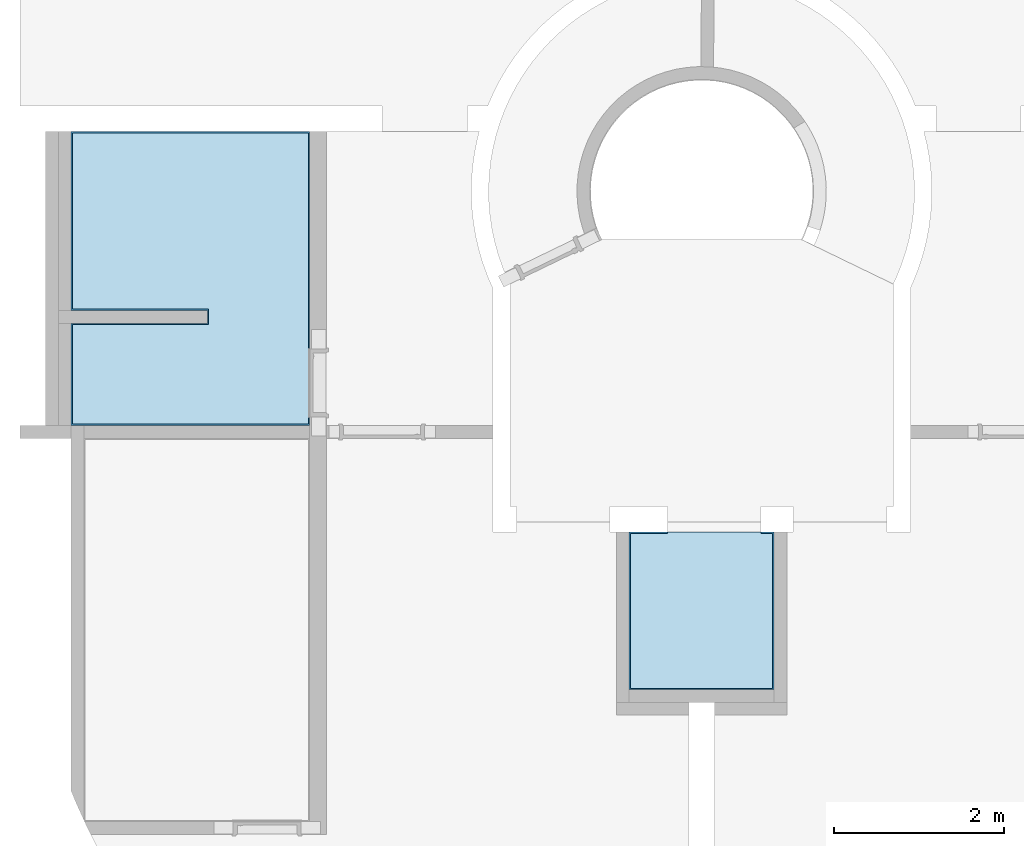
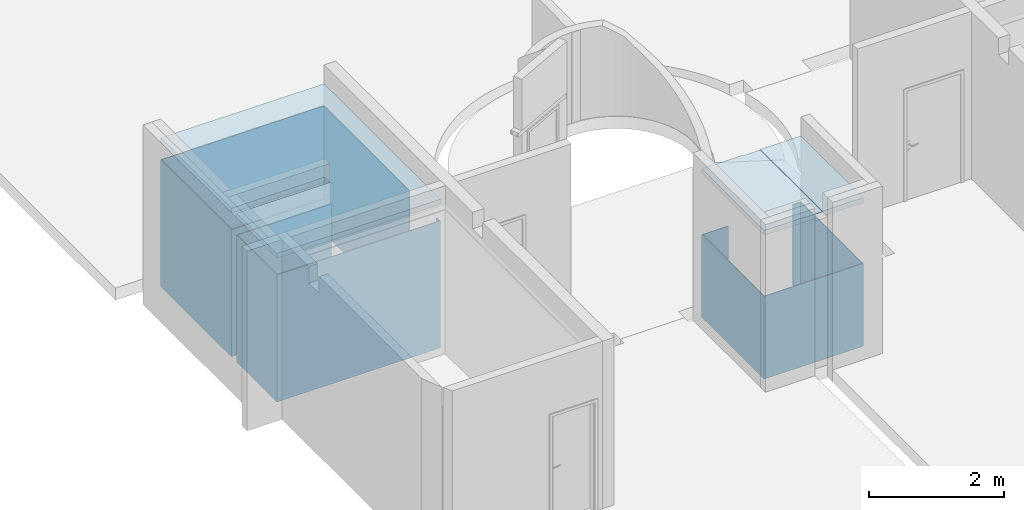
# One storey, part 8 of 21: 4 slabs.
"""IFC4 building model written with IfcOpenShell, lengths in millimetres."""

from ifc_helpers import new_model, entity, si_unit, converted_unit, derived_unit, direction, frame, origin_with_axes, place, context, subcontext, project, spatial, polygons, material, constituent, constituent_set, type_object, element, save


model = new_model("IFC4")

# Units and contexts
model_context = context("Model", 3, precision=0.01, world=origin_with_axes(), true_north=direction((0.0, 1.0)))
body_context = subcontext(model_context, "Body", "Model", "MODEL_VIEW")
ifc_project = project(units=[si_unit("LENGTHUNIT", "METRE", prefix="MILLI"), si_unit("AREAUNIT", "SQUARE_METRE"), si_unit("VOLUMEUNIT", "CUBIC_METRE"), converted_unit("PLANEANGLEUNIT", "DEGREE", entity("IfcPlaneAngleMeasure", 0.0174532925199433), si_unit("PLANEANGLEUNIT", "RADIAN"), dimensions=[0, 0, 0, 0, 0, 0, 0]), converted_unit("TIMEUNIT", "Year", entity("IfcTimeMeasure", 31557600.0), si_unit("TIMEUNIT", "SECOND"), dimensions=[0, 0, 1, 0, 0, 0, 0]), si_unit("MASSUNIT", "GRAM", prefix="KILO"), si_unit("THERMODYNAMICTEMPERATUREUNIT", "DEGREE_CELSIUS"), si_unit("LUMINOUSINTENSITYUNIT", "LUMEN"), si_unit("ENERGYUNIT", "JOULE", prefix="MEGA"), derived_unit("THERMALCONDUCTANCEUNIT", [(si_unit("POWERUNIT", "WATT"), 1), (si_unit("LENGTHUNIT", "METRE"), -1), (si_unit("THERMODYNAMICTEMPERATUREUNIT", "KELVIN"), -1)]), derived_unit("SPECIFICHEATCAPACITYUNIT", [(si_unit("ENERGYUNIT", "JOULE"), 1), (si_unit("MASSUNIT", "GRAM", prefix="KILO"), -1), (si_unit("THERMODYNAMICTEMPERATUREUNIT", "KELVIN"), -1)]), derived_unit("MASSDENSITYUNIT", [(si_unit("MASSUNIT", "GRAM", prefix="KILO"), 1), (si_unit("VOLUMEUNIT", "CUBIC_METRE"), -1)])], contexts=[model_context])

# Site, building, storey
site_placement = place(None, origin_with_axes())
site = spatial("IfcSite", under=ifc_project, at=site_placement, Name="Exteriér", CompositionType="ELEMENT")
building_placement = place(site_placement, origin_with_axes())
building = spatial("IfcBuilding", under=site, at=building_placement, Name="Univerzitní lezecké centrum", CompositionType="ELEMENT")
storey_placement = place(building_placement, frame((0.0, 0.0, -3350.0), z_axis=(0.0, 0.0, 1.0), x_axis=(1.0, 0.0, 0.0)))
storey = spatial("IfcBuildingStorey", under=building, at=storey_placement, Name="1.PP", CompositionType="ELEMENT", Elevation=-3350.0)

# Slabs
ifc_material_1 = material(Name="Keramická dlažba 20x40 - obklad")
slab_type_1 = type_object("IfcSlabType", Name="Keramická dlažba 20x40 - obklad 2300", PredefinedType="FLOOR")
slab_1_placement = place(storey_placement, frame((-4950.148351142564, 950.0000000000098, 2300.0), z_axis=(0.0, 0.0, 1.0), x_axis=(1.0, 0.0, 0.0)))
element("IfcSlab", 1, at=slab_1_placement, inside=storey, type_object=slab_type_1, material=ifc_material_1, PredefinedType="FLOOR", context=body_context, shape_type="Tessellation", body=[
    polygons([(0.0, 0.0, 0.0), (0.0, 0.0, -2300.0), (2799.739491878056, 0.0, -2300.0), (2799.739491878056, 0.0, 0.0), (0.0, 1199.984554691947, 0.0), (0.0, 1199.984554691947, -2300.0), (1599.976818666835, 1199.984554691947, -2300.0), (1599.976818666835, 1349.984506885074, -2300.0), (0.0, 1349.984506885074, -2300.0), (0.0, 3449.999980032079, -2300.0), (2799.739440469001, 3449.999980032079, -2300.0), (2799.739440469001, 900.0000216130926, -2300.0), (2784.969413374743, 900.0000216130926, -2300.0), (2784.969413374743, 3434.97717461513, -2300.0), (15.17281703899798, 3434.97717461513, -2300.0), (15.17281703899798, 1364.984538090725, -2300.0), (1614.976798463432, 1364.984538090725, -2300.0), (1614.976798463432, 1184.984523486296, -2300.0), (15.17286844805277, 1184.984523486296, -2300.0), (15.17286844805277, 14.991908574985, -2300.0), (2724.739490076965, 14.991908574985, -2300.0), (2784.739460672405, 14.99997979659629, -2300.0), (2784.739460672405, 100.0000195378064, -2300.0), (2799.739491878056, 100.0000195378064, -2300.0), (2799.739491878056, 100.0000195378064, 0.0), (2784.739460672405, 100.0000195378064, 0.0), (2784.739460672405, 14.99997979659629, 0.0), (2724.739490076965, 14.991908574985, 0.0), (15.17286844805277, 14.991908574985, 0.0), (15.17286844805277, 1184.984523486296, 0.0), (1614.976798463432, 1184.984523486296, 0.0), (1614.976798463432, 1364.984538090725, 0.0), (15.17281703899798, 1364.984538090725, 0.0), (15.17281703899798, 3434.97717461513, 0.0), (2784.969413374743, 3434.97717461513, 0.0), (2784.969413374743, 900.0000216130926, 0.0), (2799.739440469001, 900.0000216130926, 0.0), (2799.739440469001, 3449.999980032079, 0.0), (0.0, 3449.999980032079, 0.0), (0.0, 1349.984506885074, 0.0), (1599.976818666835, 1349.984506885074, 0.0), (1599.976818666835, 1199.984554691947, 0.0)], [[[1, 2, 3, 4]], [[5, 6, 2, 1]], [[2, 6, 7, 8, 9, 10, 11, 12, 13, 14, 15, 16, 17, 18, 19, 20, 21, 22, 23, 24, 3]], [[4, 3, 24, 25]], [[5, 1, 4, 25, 26, 27, 28, 29, 30, 31, 32, 33, 34, 35, 36, 37, 38, 39, 40, 41, 42]], [[42, 7, 6, 5]], [[41, 8, 7, 42]], [[40, 9, 8, 41]], [[39, 10, 9, 40]], [[38, 11, 10, 39]], [[37, 12, 11, 38]], [[36, 13, 12, 37]], [[35, 14, 13, 36]], [[34, 15, 14, 35]], [[33, 16, 15, 34]], [[32, 17, 16, 33]], [[31, 18, 17, 32]], [[30, 19, 18, 31]], [[29, 20, 19, 30]], [[28, 21, 20, 29]], [[27, 22, 21, 28]], [[26, 23, 22, 27]], [[25, 24, 23, 26]]], closed=True),
])
slab_type_2 = type_object("IfcSlabType", Name="Keramická dlažba 20x40 - obklad 1500", PredefinedType="FLOOR")
slab_2_placement = place(storey_placement, frame((1599.851648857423, -2149.739474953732, 1500.0), z_axis=(0.0, 0.0, 1.0), x_axis=(1.0, 0.0, 0.0)))
element("IfcSlab", 2, at=slab_2_placement, inside=storey, type_object=slab_type_2, material=ifc_material_1, PredefinedType="FLOOR", context=body_context, shape_type="Tessellation", body=[
    polygons([(0.0, 0.0, 0.0), (0.0, 0.0, -1500.0), (1700.000003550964, -2.756329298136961e-05, -1500.0), (1700.000003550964, -2.756329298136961e-05, 0.0), (0.0, 1849.739495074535, 0.0), (0.0, 1849.739495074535, -1500.0), (448.8295289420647, 1849.739495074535, -1500.0), (448.8295289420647, 1834.739495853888, -1500.0), (15.00002678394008, 1834.739495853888, -1500.0), (15.00002678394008, 15.00002678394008, -1500.0), (1685.000059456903, 14.9999992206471, -1500.0), (1685.000059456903, 1834.739468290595, -1500.0), (1550.000011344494, 1834.739468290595, -1500.0), (1550.000011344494, 1849.739467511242, -1500.0), (1700.000003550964, 1849.739467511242, -1500.0), (1700.000003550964, 1849.739467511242, 0.0), (1550.000011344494, 1849.739467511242, 0.0), (1550.000011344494, 1834.739468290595, 0.0), (1685.000059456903, 1834.739468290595, 0.0), (1685.000059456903, 14.9999992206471, 0.0), (15.00002678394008, 15.00002678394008, 0.0), (15.00002678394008, 1834.739495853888, 0.0), (448.8295289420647, 1834.739495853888, 0.0), (448.8295289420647, 1849.739495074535, 0.0)], [[[1, 2, 3, 4]], [[5, 6, 2, 1]], [[2, 6, 7, 8, 9, 10, 11, 12, 13, 14, 15, 3]], [[4, 3, 15, 16]], [[1, 4, 16, 17, 18, 19, 20, 21, 22, 23, 24, 5]], [[24, 7, 6, 5]], [[23, 8, 7, 24]], [[22, 9, 8, 23]], [[21, 10, 9, 22]], [[20, 11, 10, 21]], [[19, 12, 11, 20]], [[18, 13, 12, 19]], [[17, 14, 13, 18]], [[16, 15, 14, 17]]], closed=True),
])
ifc_material_2 = material(Name="SDK - UA profil nosný 50")
ifc_constituent_1 = constituent(ifc_material_2, Name="SDK - UA profil nosný 50")
ifc_material_3 = material(Name="SDK - R-CD profil montážní")
ifc_constituent_2 = constituent(ifc_material_3, Name="SDK - R-CD profil montážní")
ifc_material_4 = material(Name="Sádrokarton - voděodolný")
ifc_constituent_3 = constituent(ifc_material_4, Name="Sádrokarton - voděodolný")
ifc_constituent_set_1 = constituent_set(constituents=[ifc_constituent_1, ifc_constituent_2, ifc_constituent_3], Name="!SDK - hygienický")
slab_type_3 = type_object("IfcSlabType", Name="!SDK - hygienický 90", PredefinedType="FLOOR")
slab_3_placement = place(storey_placement, frame((-4950.148351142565, 950.0000000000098, 2690.0), z_axis=(0.0, 0.0, 1.0), x_axis=(1.0, 0.0, 0.0)))
element("IfcSlab", 3, at=slab_3_placement, inside=storey, type_object=slab_type_3, material=ifc_constituent_set_1, Name="Pdh01", PredefinedType="FLOOR", context=body_context, shape_type="Tessellation", body=[
    polygons([(1599.999979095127, 1349.984543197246, 0.0), (1599.976793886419, 1199.984544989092, 0.0), (0.0, 1199.984561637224, 0.0), (0.0, 0.0, 0.0), (2799.739461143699, 0.0, 0.0), (2799.739461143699, 3450.000000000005, 0.0), (0.0, 3450.000000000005, 0.0), (0.0, 1350.255029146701, 0.0), (1599.976780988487, 1350.255029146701, 0.0), (1599.976780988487, 1349.984546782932, 0.0), (1599.999979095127, 1349.984543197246, -50.00000000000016), (1599.976793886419, 1199.984544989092, -50.00000000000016), (0.0, 1199.984561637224, -50.00000000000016), (0.0, 0.0, -50.00000000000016), (2799.739461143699, 0.0, -50.00000000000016), (2799.739461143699, 3450.000000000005, -50.00000000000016), (0.0, 3450.000000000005, -50.00000000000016), (0.0, 1350.255029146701, -50.00000000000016), (1599.976780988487, 1350.255029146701, -50.00000000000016), (1599.976780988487, 1349.984546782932, -50.00000000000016)], [[[1, 2, 3, 4, 5, 6, 7, 8, 9, 10]], [[2, 1, 11, 12]], [[2, 12, 13, 3]], [[13, 14, 4, 3]], [[14, 15, 5, 4]], [[15, 16, 6, 5]], [[16, 17, 7, 6]], [[17, 18, 8, 7]], [[18, 19, 9, 8]], [[20, 10, 9, 19]], [[1, 10, 20, 11]], [[11, 20, 19, 18, 17, 16, 15, 14, 13, 12]]], closed=True),
    polygons([(1599.999979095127, 1349.984543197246, -50.00000000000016), (1599.976793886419, 1199.984544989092, -50.00000000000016), (0.0, 1199.984561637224, -50.00000000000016), (0.0, 0.0, -50.00000000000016), (2799.739461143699, 0.0, -50.00000000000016), (2799.739461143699, 3450.000000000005, -50.00000000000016), (0.0, 3450.000000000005, -50.00000000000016), (0.0, 1350.255029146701, -50.00000000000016), (1599.976780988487, 1350.255029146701, -50.00000000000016), (1599.976780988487, 1349.984546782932, -50.00000000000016), (1599.999979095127, 1349.984543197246, -77.00000000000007), (1599.976793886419, 1199.984544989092, -77.00000000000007), (0.0, 1199.984561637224, -77.00000000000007), (0.0, 0.0, -77.00000000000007), (2799.739461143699, 0.0, -77.00000000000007), (2799.739461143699, 3450.000000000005, -77.00000000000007), (0.0, 3450.000000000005, -77.00000000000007), (0.0, 1350.255029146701, -77.00000000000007), (1599.976780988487, 1350.255029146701, -77.00000000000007), (1599.976780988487, 1349.984546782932, -77.00000000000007)], [[[1, 2, 3, 4, 5, 6, 7, 8, 9, 10]], [[2, 1, 11, 12]], [[2, 12, 13, 3]], [[13, 14, 4, 3]], [[14, 15, 5, 4]], [[15, 16, 6, 5]], [[16, 17, 7, 6]], [[17, 18, 8, 7]], [[18, 19, 9, 8]], [[20, 10, 9, 19]], [[1, 10, 20, 11]], [[11, 20, 19, 18, 17, 16, 15, 14, 13, 12]]], closed=True),
    polygons([(1599.999979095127, 1349.984543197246, -77.00000000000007), (1599.976793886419, 1199.984544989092, -77.00000000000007), (0.0, 1199.984561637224, -77.00000000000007), (0.0, 0.0, -77.00000000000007), (2799.739461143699, 0.0, -77.00000000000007), (2799.739461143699, 3450.000000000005, -77.00000000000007), (0.0, 3450.000000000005, -77.00000000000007), (0.0, 1350.255029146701, -77.00000000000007), (1599.976780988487, 1350.255029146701, -77.00000000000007), (1599.976780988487, 1349.984546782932, -77.00000000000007), (1599.999979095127, 1349.984543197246, -89.99999999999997), (1599.976793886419, 1199.984544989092, -89.99999999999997), (0.0, 1199.984561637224, -89.99999999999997), (0.0, 0.0, -89.99999999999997), (2799.739461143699, 0.0, -89.99999999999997), (2799.739461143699, 3450.000000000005, -89.99999999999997), (0.0, 3450.000000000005, -89.99999999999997), (0.0, 1350.255029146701, -89.99999999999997), (1599.976780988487, 1350.255029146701, -89.99999999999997), (1599.976780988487, 1349.984546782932, -89.99999999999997)], [[[1, 2, 3, 4, 5, 6, 7, 8, 9, 10]], [[2, 1, 11, 12]], [[2, 12, 13, 3]], [[3, 13, 14, 4]], [[4, 14, 15, 5]], [[5, 15, 16, 6]], [[6, 16, 17, 7]], [[7, 17, 18, 8]], [[8, 18, 19, 9]], [[20, 10, 9, 19]], [[1, 10, 20, 11]], [[11, 20, 19, 18, 17, 16, 15, 14, 13, 12]]], closed=True),
])
ifc_constituent_4 = constituent(ifc_material_2, Name="SDK - UA profil nosný 50")
ifc_constituent_5 = constituent(ifc_material_3, Name="SDK - R-CD profil montážní")
ifc_constituent_6 = constituent(ifc_material_4, Name="Sádrokarton - voděodolný")
ifc_constituent_set_2 = constituent_set(constituents=[ifc_constituent_4, ifc_constituent_5, ifc_constituent_6], Name="!SDK - hygienický")
slab_4_placement = place(storey_placement, frame((1599.851648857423, -2149.739482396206, 2690.0), z_axis=(0.0, 0.0, 1.0), x_axis=(1.0, 0.0, 0.0)))
element("IfcSlab", 4, at=slab_4_placement, inside=storey, type_object=slab_type_3, material=ifc_constituent_set_2, Name="Pdh01", PredefinedType="FLOOR", context=body_context, shape_type="Tessellation", body=[
    polygons([(700.0000000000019, 1849.739482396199, -9.999999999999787), (1000.000000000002, 1849.739482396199, -9.999999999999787), (1000.000000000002, 1849.739482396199, 0.0), (1699.999999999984, 1849.739482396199, 0.0), (1699.999999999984, 1849.739482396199, -50.00000000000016), (0.0, 1849.739482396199, -50.00000000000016), (0.0, 1849.739482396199, 0.0), (700.0000000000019, 1849.739482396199, 0.0), (700.0000000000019, 0.0, -9.999999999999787), (1000.000000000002, 0.0, -9.999999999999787), (1000.000000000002, 0.0, 0.0), (1699.999999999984, 0.0, 0.0), (1699.999999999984, 0.0, -50.00000000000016), (0.0, 0.0, -50.00000000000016), (0.0, 0.0, 0.0), (700.0000000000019, 0.0, 0.0)], [[[1, 2, 3, 4, 5, 6, 7, 8]], [[2, 1, 9, 10]], [[11, 3, 2, 10]], [[3, 11, 12, 4]], [[13, 5, 4, 12]], [[13, 14, 6, 5]], [[6, 14, 15, 7]], [[16, 8, 7, 15]], [[1, 8, 16, 9]], [[9, 16, 15, 14, 13, 12, 11, 10]]], closed=True),
    polygons([(1699.999999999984, 0.0, -77.00000000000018), (1699.999999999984, 0.0, -50.00000000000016), (0.0, 0.0, -50.00000000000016), (0.0, 0.0, -77.00000000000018), (1699.999999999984, 1849.739482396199, -77.00000000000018), (1699.999999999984, 1849.739482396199, -50.00000000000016), (0.0, 1849.739482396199, -50.00000000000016), (0.0, 1849.739482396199, -77.00000000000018)], [[[1, 2, 3, 4]], [[5, 6, 2, 1]], [[3, 2, 6, 7]], [[4, 3, 7, 8]], [[4, 8, 5, 1]], [[8, 7, 6, 5]]], closed=True),
    polygons([(0.0, 0.0, -90.00000000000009), (1699.999999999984, 0.0, -90.00000000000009), (1699.999999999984, 0.0, -77.00000000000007), (0.0, 0.0, -77.00000000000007), (0.0, 1849.739482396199, -90.00000000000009), (1699.999999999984, 1849.739482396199, -90.00000000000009), (1699.999999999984, 1849.739482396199, -77.00000000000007), (0.0, 1849.739482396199, -77.00000000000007)], [[[1, 2, 3, 4]], [[1, 5, 6, 2]], [[2, 6, 7, 3]], [[4, 3, 7, 8]], [[5, 1, 4, 8]], [[6, 5, 8, 7]]], closed=True),
])

save(model, "model.ifc")
